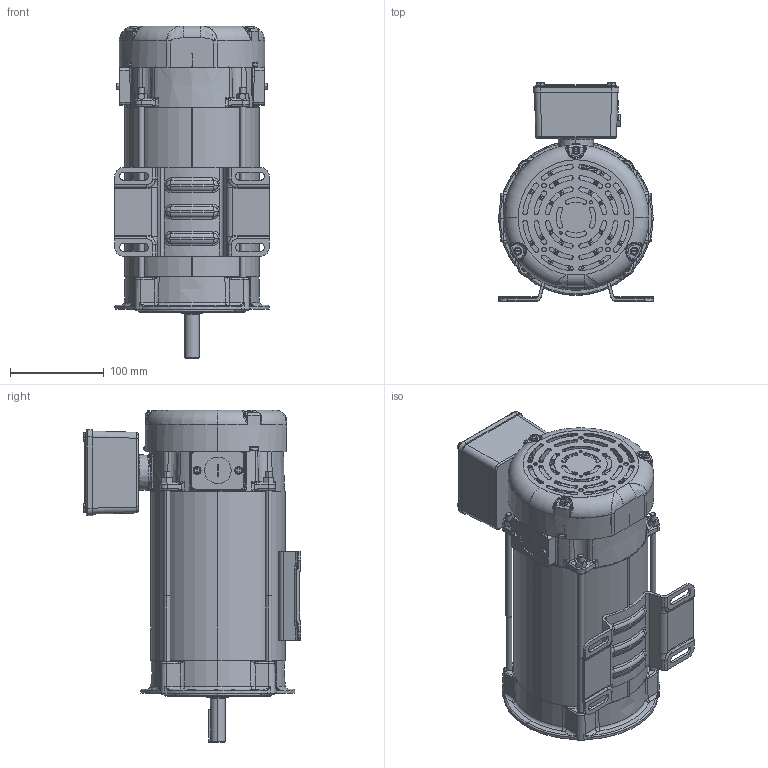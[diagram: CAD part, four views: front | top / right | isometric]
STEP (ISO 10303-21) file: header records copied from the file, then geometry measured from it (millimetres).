
FILE_DESCRIPTION (( 'STEP AP203' ), '1' );
FILE_NAME ('031741-US56C_RevA.STEP', '2018-02-13T17:49:30', ( 'RBC' ), ( 'RBC' ), 'SwSTEP 2.0', 'SolidWorks 2015', '' );
FILE_SCHEMA (( 'CONFIG_CONTROL_DESIGN' ));
Length unit declared in the file: inch
Products named in the file (1): 031741-US56C_RevA
Bounding box: 165.1 x 233.03 x 354.98 mm (x, y, z)
Volume: 1114661.8 mm3; surface area: 605488.3 mm2
Topology: 50 solids, 50 shells, 3523 faces, 8549 edges, 5044 vertices
Faces by surface type: bspline 1005, cylinder 944, plane 696, cone 455, torus 385, sphere 38
Entity records: 143925 total; most frequent: CARTESIAN_POINT 69076, ORIENTED_EDGE 16762, DIRECTION 14394, EDGE_CURVE 8381, AXIS2_PLACEMENT_3D 6049, VERTEX_POINT 5044, EDGE_LOOP 3769, CIRCLE 3530
